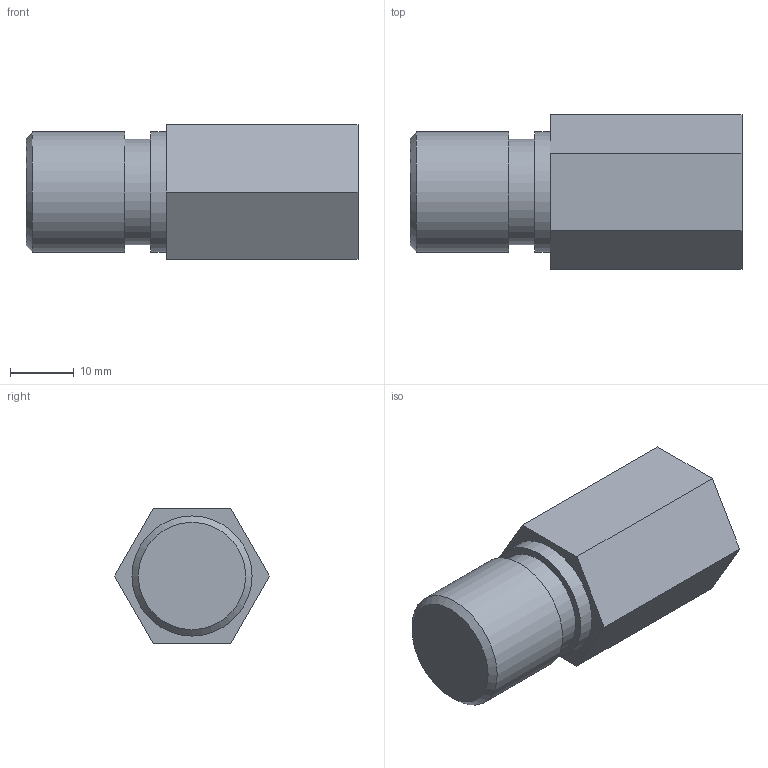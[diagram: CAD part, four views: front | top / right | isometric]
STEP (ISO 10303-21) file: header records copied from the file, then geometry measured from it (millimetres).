
FILE_DESCRIPTION((''),'2;1');
FILE_NAME('Z:\客先\あ行\アオイ\99_その他\3D_DATA\CPR_Series\6CPR-SPV-RC\STEP\203\CPR-SPV-RC3-8.ipt.stp','2008-07-02T09:53:49',(''),(''),'Autodesk Inventor 2009','Autodesk Inventor 2009','');
FILE_SCHEMA(('CONFIG_CONTROL_DESIGN'));
Length unit declared in the file: millimetre
Products named in the file (1): CPR-SPV-RC3-8
Bounding box: 52 x 24.25 x 21 mm (x, y, z)
Volume: 14264 mm3; surface area: 5014.4 mm2
Topology: 1 solids, 1 shells, 17 faces, 32 edges, 21 vertices
Faces by surface type: plane 12, cylinder 3, cone 2
Full cylindrical faces by diameter (mm): 16.5 x1, 18.8 x2
Entity records: 419 total; most frequent: DIRECTION 72, CARTESIAN_POINT 66, ORIENTED_EDGE 54, AXIS2_PLACEMENT_3D 27, EDGE_CURVE 27, EDGE_LOOP 26, VERTEX_POINT 21, VECTOR 18
